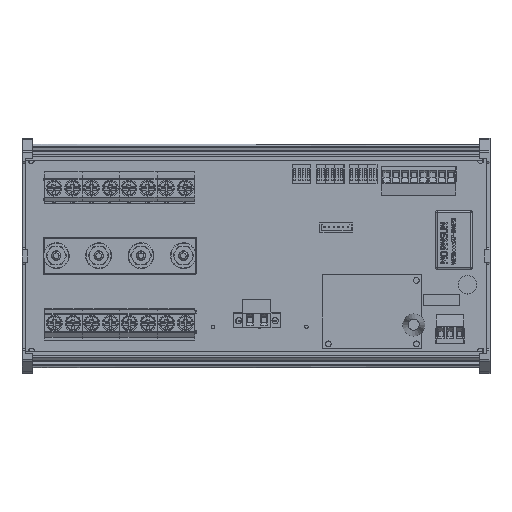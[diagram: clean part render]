
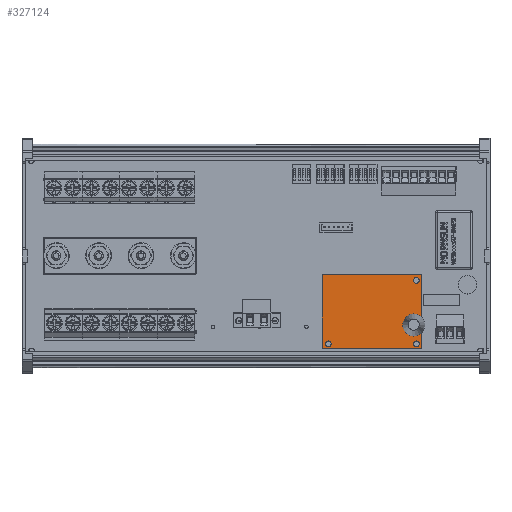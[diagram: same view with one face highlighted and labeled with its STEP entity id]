
A CAD part, top view. The second image highlights one B-rep face of the part: STEP entity #327124.
In plain terms, the highlighted planar face has unit normal (0, 0, 1).
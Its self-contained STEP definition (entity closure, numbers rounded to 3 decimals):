
#326810 = VERTEX_POINT('',#326811);
#326811 = CARTESIAN_POINT('',(123.,3.,13.2));
#326818 = PLANE('',#326819);
#326819 = AXIS2_PLACEMENT_3D('',#326820,#326821,#326822);
#326820 = CARTESIAN_POINT('',(123.,3.,11.6));
#326821 = DIRECTION('',(1.,0.,0.));
#326822 = DIRECTION('',(0.,0.,1.));
#326830 = PLANE('',#326831);
#326831 = AXIS2_PLACEMENT_3D('',#326832,#326833,#326834);
#326832 = CARTESIAN_POINT('',(123.,3.,11.6));
#326833 = DIRECTION('',(0.,1.,0.));
#326834 = DIRECTION('',(0.,-0.,1.));
#326871 = VERTEX_POINT('',#326872);
#326872 = CARTESIAN_POINT('',(123.,43.,13.2));
#326886 = PLANE('',#326887);
#326887 = AXIS2_PLACEMENT_3D('',#326888,#326889,#326890);
#326888 = CARTESIAN_POINT('',(123.,43.,11.6));
#326889 = DIRECTION('',(0.,1.,0.));
#326890 = DIRECTION('',(0.,-0.,1.));
#326898 = EDGE_CURVE('',#326810,#326871,#326899,.T.);
#326899 = SURFACE_CURVE('',#326900,(#326904,#326911),.PCURVE_S1.);
#326900 = LINE('',#326901,#326902);
#326901 = CARTESIAN_POINT('',(123.,3.,13.2));
#326902 = VECTOR('',#326903,1.);
#326903 = DIRECTION('',(0.,1.,0.));
#326904 = PCURVE('',#326818,#326905);
#326905 = DEFINITIONAL_REPRESENTATION('',(#326906),#326910);
#326906 = LINE('',#326907,#326908);
#326907 = CARTESIAN_POINT('',(1.6,0.));
#326908 = VECTOR('',#326909,1.);
#326909 = DIRECTION('',(0.,-1.));
#326910 = ( GEOMETRIC_REPRESENTATION_CONTEXT(2) 
PARAMETRIC_REPRESENTATION_CONTEXT() REPRESENTATION_CONTEXT('2D SPACE',''
  ) );
#326911 = PCURVE('',#326912,#326917);
#326912 = PLANE('',#326913);
#326913 = AXIS2_PLACEMENT_3D('',#326914,#326915,#326916);
#326914 = CARTESIAN_POINT('',(123.,3.,13.2));
#326915 = DIRECTION('',(0.,0.,1.));
#326916 = DIRECTION('',(1.,0.,-0.));
#326917 = DEFINITIONAL_REPRESENTATION('',(#326918),#326922);
#326918 = LINE('',#326919,#326920);
#326919 = CARTESIAN_POINT('',(0.,0.));
#326920 = VECTOR('',#326921,1.);
#326921 = DIRECTION('',(0.,1.));
#326922 = ( GEOMETRIC_REPRESENTATION_CONTEXT(2) 
PARAMETRIC_REPRESENTATION_CONTEXT() REPRESENTATION_CONTEXT('2D SPACE',''
  ) );
#326930 = VERTEX_POINT('',#326931);
#326931 = CARTESIAN_POINT('',(177.,3.,13.2));
#326938 = PLANE('',#326939);
#326939 = AXIS2_PLACEMENT_3D('',#326940,#326941,#326942);
#326940 = CARTESIAN_POINT('',(177.,3.,11.6));
#326941 = DIRECTION('',(1.,0.,0.));
#326942 = DIRECTION('',(0.,0.,1.));
#326981 = VERTEX_POINT('',#326982);
#326982 = CARTESIAN_POINT('',(177.,43.,13.2));
#327003 = EDGE_CURVE('',#326930,#326981,#327004,.T.);
#327004 = SURFACE_CURVE('',#327005,(#327009,#327016),.PCURVE_S1.);
#327005 = LINE('',#327006,#327007);
#327006 = CARTESIAN_POINT('',(177.,3.,13.2));
#327007 = VECTOR('',#327008,1.);
#327008 = DIRECTION('',(0.,1.,0.));
#327009 = PCURVE('',#326938,#327010);
#327010 = DEFINITIONAL_REPRESENTATION('',(#327011),#327015);
#327011 = LINE('',#327012,#327013);
#327012 = CARTESIAN_POINT('',(1.6,0.));
#327013 = VECTOR('',#327014,1.);
#327014 = DIRECTION('',(0.,-1.));
#327015 = ( GEOMETRIC_REPRESENTATION_CONTEXT(2) 
PARAMETRIC_REPRESENTATION_CONTEXT() REPRESENTATION_CONTEXT('2D SPACE',''
  ) );
#327016 = PCURVE('',#326912,#327017);
#327017 = DEFINITIONAL_REPRESENTATION('',(#327018),#327022);
#327018 = LINE('',#327019,#327020);
#327019 = CARTESIAN_POINT('',(54.,0.));
#327020 = VECTOR('',#327021,1.);
#327021 = DIRECTION('',(0.,1.));
#327022 = ( GEOMETRIC_REPRESENTATION_CONTEXT(2) 
PARAMETRIC_REPRESENTATION_CONTEXT() REPRESENTATION_CONTEXT('2D SPACE',''
  ) );
#327049 = EDGE_CURVE('',#326810,#326930,#327050,.T.);
#327050 = SURFACE_CURVE('',#327051,(#327055,#327062),.PCURVE_S1.);
#327051 = LINE('',#327052,#327053);
#327052 = CARTESIAN_POINT('',(123.,3.,13.2));
#327053 = VECTOR('',#327054,1.);
#327054 = DIRECTION('',(1.,0.,0.));
#327055 = PCURVE('',#326830,#327056);
#327056 = DEFINITIONAL_REPRESENTATION('',(#327057),#327061);
#327057 = LINE('',#327058,#327059);
#327058 = CARTESIAN_POINT('',(1.6,0.));
#327059 = VECTOR('',#327060,1.);
#327060 = DIRECTION('',(0.,1.));
#327061 = ( GEOMETRIC_REPRESENTATION_CONTEXT(2) 
PARAMETRIC_REPRESENTATION_CONTEXT() REPRESENTATION_CONTEXT('2D SPACE',''
  ) );
#327062 = PCURVE('',#326912,#327063);
#327063 = DEFINITIONAL_REPRESENTATION('',(#327064),#327068);
#327064 = LINE('',#327065,#327066);
#327065 = CARTESIAN_POINT('',(0.,0.));
#327066 = VECTOR('',#327067,1.);
#327067 = DIRECTION('',(1.,0.));
#327068 = ( GEOMETRIC_REPRESENTATION_CONTEXT(2) 
PARAMETRIC_REPRESENTATION_CONTEXT() REPRESENTATION_CONTEXT('2D SPACE',''
  ) );
#327096 = EDGE_CURVE('',#326871,#326981,#327097,.T.);
#327097 = SURFACE_CURVE('',#327098,(#327102,#327109),.PCURVE_S1.);
#327098 = LINE('',#327099,#327100);
#327099 = CARTESIAN_POINT('',(123.,43.,13.2));
#327100 = VECTOR('',#327101,1.);
#327101 = DIRECTION('',(1.,0.,0.));
#327102 = PCURVE('',#326886,#327103);
#327103 = DEFINITIONAL_REPRESENTATION('',(#327104),#327108);
#327104 = LINE('',#327105,#327106);
#327105 = CARTESIAN_POINT('',(1.6,0.));
#327106 = VECTOR('',#327107,1.);
#327107 = DIRECTION('',(0.,1.));
#327108 = ( GEOMETRIC_REPRESENTATION_CONTEXT(2) 
PARAMETRIC_REPRESENTATION_CONTEXT() REPRESENTATION_CONTEXT('2D SPACE',''
  ) );
#327109 = PCURVE('',#326912,#327110);
#327110 = DEFINITIONAL_REPRESENTATION('',(#327111),#327115);
#327111 = LINE('',#327112,#327113);
#327112 = CARTESIAN_POINT('',(0.,40.));
#327113 = VECTOR('',#327114,1.);
#327114 = DIRECTION('',(1.,0.));
#327115 = ( GEOMETRIC_REPRESENTATION_CONTEXT(2) 
PARAMETRIC_REPRESENTATION_CONTEXT() REPRESENTATION_CONTEXT('2D SPACE',''
  ) );
#327124 = ADVANCED_FACE('',(#327125),#326912,.T.);
#327125 = FACE_BOUND('',#327126,.T.);
#327126 = EDGE_LOOP('',(#327127,#327128,#327129,#327130));
#327127 = ORIENTED_EDGE('',*,*,#326898,.F.);
#327128 = ORIENTED_EDGE('',*,*,#327049,.T.);
#327129 = ORIENTED_EDGE('',*,*,#327003,.T.);
#327130 = ORIENTED_EDGE('',*,*,#327096,.F.);
